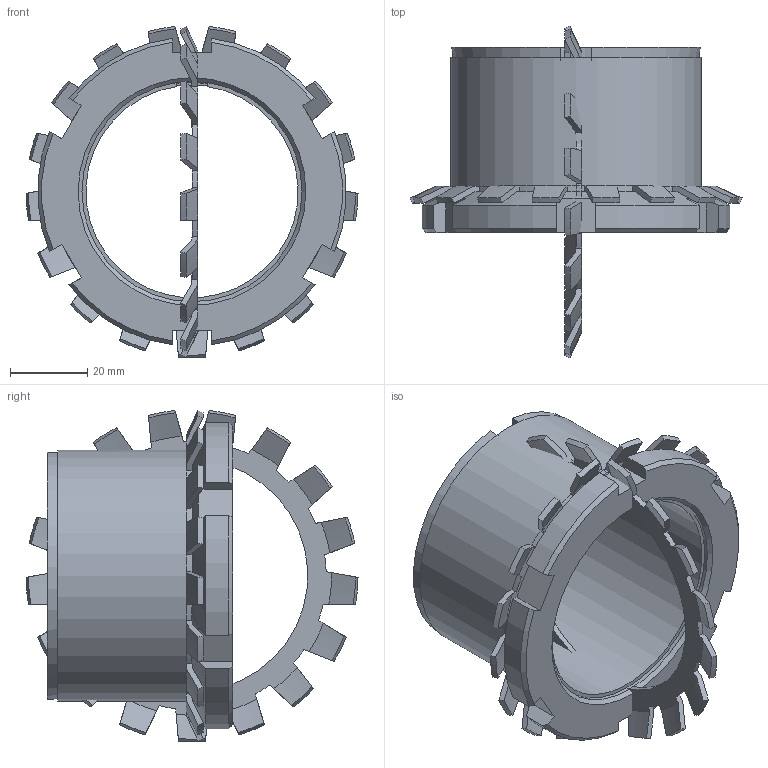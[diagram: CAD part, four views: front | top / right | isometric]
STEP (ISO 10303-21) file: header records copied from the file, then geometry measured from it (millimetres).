
FILE_DESCRIPTION( ( 'Unknown' ), '1' );
FILE_NAME( 'C:/Dokumente und Einstellungen/Sven/Desktop/homepage/cad - homepage/KBS55/KBS 55 - 55 x 65.stp', 'Unknown', ( 'Unknown' ), ( 'Unknown' ), 'XStep 1.0', 'Unknown', ' ' );
FILE_SCHEMA( ( 'automotive_design' ) );
Length unit declared in the file: millimetre
Products named in the file (3): Assem1; KBS 55 - 55 x 65; 08570121_locking_plate_din_5406_mb_12_2_14a
Bounding box: 85.99 x 85.99 x 85.75 mm (x, y, z)
Volume: 119317.4 mm3; surface area: 56860 mm2
Topology: 4 solids, 4 shells, 306 faces, 884 edges, 588 vertices
Faces by surface type: plane 130, cone 122, cylinder 54
Full cylindrical faces by diameter (mm): 57 x2, 65 x2
Entity records: 7568 total; most frequent: CARTESIAN_POINT 1150, ORIENTED_EDGE 874, DIRECTION 816, EDGE_CURVE 437, STYLED_ITEM 426, PRESENTATION_STYLE_ASSIGNMENT 426, COLOUR_RGB 426, AXIS2_PLACEMENT_3D 323
